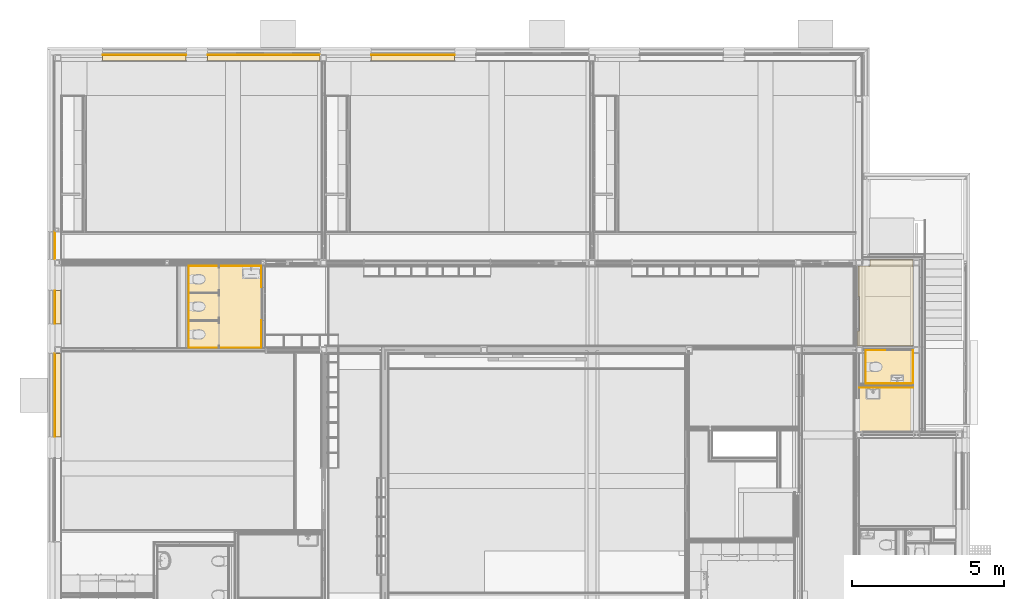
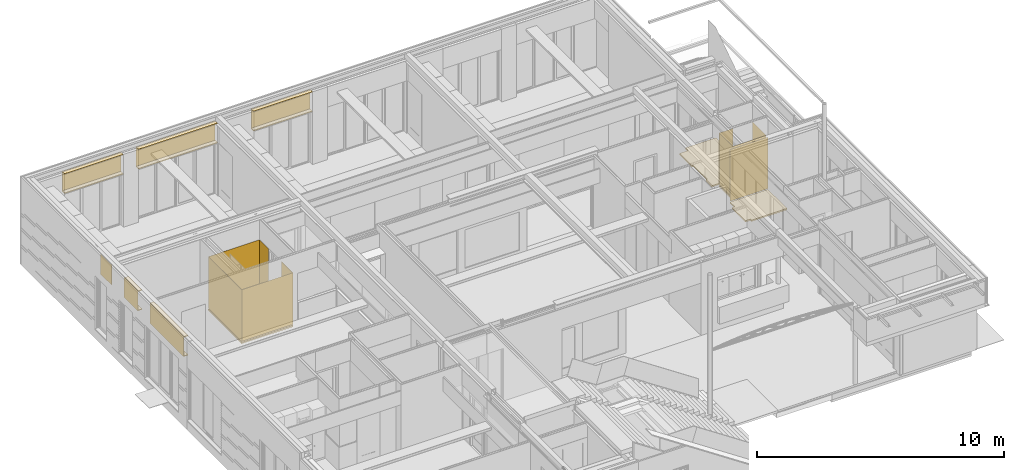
# One storey, part 119 of 165: 30 coverings, 20 elements without a shape of their own.
"""IFC2X3 building model written with IfcOpenShell, lengths in millimetres."""

from ifc_helpers import new_model, entity, si_unit, converted_unit, derived_unit, money_unit, direction, frame, origin_with_axes, place, context, subcontext, project, spatial, faceted_brep, material, type_object, element, aggregate, save


model = new_model("IFC2X3")

# Units and contexts
model_context = context("Model", 3, precision=0.01, world=origin_with_axes(), true_north=direction((0.0, 1.0)))
body_context = subcontext(model_context, "Body", "Model", "MODEL_VIEW")
ifc_project = project(units=[si_unit("LENGTHUNIT", "METRE", prefix="MILLI"), si_unit("AREAUNIT", "SQUARE_METRE"), si_unit("VOLUMEUNIT", "CUBIC_METRE"), converted_unit("PLANEANGLEUNIT", "DEGREE", entity("IfcPlaneAngleMeasure", 0.0174532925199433), si_unit("PLANEANGLEUNIT", "RADIAN"), dimensions=[0, 0, 0, 0, 0, 0, 0]), money_unit("EUR"), converted_unit("TIMEUNIT", "Year", entity("IfcTimeMeasure", 31556926.0), si_unit("TIMEUNIT", "SECOND"), dimensions=[0, 0, 1, 0, 0, 0, 0]), si_unit("MASSUNIT", "GRAM", prefix="KILO"), si_unit("THERMODYNAMICTEMPERATUREUNIT", "DEGREE_CELSIUS"), si_unit("LUMINOUSINTENSITYUNIT", "LUMEN"), si_unit("ENERGYUNIT", "JOULE", prefix="MEGA"), derived_unit("THERMALCONDUCTANCEUNIT", [(si_unit("POWERUNIT", "WATT"), 1), (si_unit("LENGTHUNIT", "METRE"), -1), (si_unit("THERMODYNAMICTEMPERATUREUNIT", "KELVIN"), -1)]), derived_unit("SPECIFICHEATCAPACITYUNIT", [(si_unit("ENERGYUNIT", "JOULE"), 1), (si_unit("MASSUNIT", "GRAM", prefix="KILO"), -1), (si_unit("THERMODYNAMICTEMPERATUREUNIT", "KELVIN"), -1)]), derived_unit("MASSDENSITYUNIT", [(si_unit("MASSUNIT", "GRAM", prefix="KILO"), 1), (si_unit("VOLUMEUNIT", "CUBIC_METRE"), -1)])], contexts=[model_context])

# Site, building, storey
site_placement = place(None, origin_with_axes())
site = spatial("IfcSite", under=ifc_project, at=site_placement, Name="Site", CompositionType="ELEMENT")
building_placement = place(site_placement, origin_with_axes())
building = spatial("IfcBuilding", under=site, at=building_placement, Name="Naam gebouw", CompositionType="ELEMENT")
storey_placement = place(building_placement, origin_with_axes())
storey = spatial("IfcBuildingStorey", under=building, at=storey_placement, Name="Begane grond", CompositionType="ELEMENT", Elevation=0.0)

# Slab, covering
slab_type = type_object("IfcSlabType", Name="43 Zwevende dekvloer 100", PredefinedType="NOTDEFINED")
slab_1_placement = place(storey_placement, frame((26461.00000000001, 22210.97623347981, 0.0), z_axis=(0.0, 0.0, 1.0), x_axis=(1.0, 0.0, 0.0)))
slab_1 = element("IfcSlab", 1, at=slab_1_placement, inside=storey, type_object=slab_type, Name="_Vloer-x", PredefinedType="NOTDEFINED")
ifc_material_1 = material(Name="Cement - dekvloer")
covering_1_placement = place(slab_1_placement, origin_with_axes())
covering_1 = element("IfcCovering", 2, at=covering_1_placement, material=ifc_material_1, Name="Cement - dekvloer", PredefinedType="FLOORING", context=body_context, shape_type="Brep", body=[
    faceted_brep([(0.0, -1005.999990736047, -70.0), (0.0, -1005.999990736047, 0.0), (0.0, 0.0, 0.0), (0.0, 0.0, -70.0), (56.99999643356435, -1005.999990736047, -70.0), (56.99999643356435, -1005.999990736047, 0.0), (56.99999643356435, -2135.99999073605, 0.0), (-4.999999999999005, -2135.99999073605, 0.0), (-4.999999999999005, -2635.975827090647, 0.0), (1824.99999779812, -2635.975827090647, 0.0), (1825.000083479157, 214.00000389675, 0.0), (398.999975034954, 214.00000389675, 0.0), (398.999975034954, 0.0, 0.0), (398.999975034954, 0.0, -70.0), (398.999975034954, 214.00000389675, -70.0), (1825.000083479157, 214.00000389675, -70.0), (1824.99999779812, -2635.975827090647, -70.0), (-4.999999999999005, -2635.975827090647, -70.0), (-4.999999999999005, -2135.99999073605, -70.0), (56.99999643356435, -2135.99999073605, -70.0)], [[[0, 1, 2, 3]], [[4, 5, 1, 0]], [[2, 1, 5, 6, 7, 8, 9, 10, 11, 12]], [[3, 2, 12, 13]], [[3, 13, 14, 15, 16, 17, 18, 19, 4, 0]], [[19, 6, 5, 4]], [[18, 7, 6, 19]], [[17, 8, 7, 18]], [[16, 9, 8, 17]], [[15, 10, 9, 16]], [[14, 11, 10, 15]], [[13, 12, 11, 14]]]),
])
aggregate(slab_1, [covering_1])

slab_2_placement = place(storey_placement, frame((27355.99997968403, 19450.00039292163, 0.0), z_axis=(0.0, 0.0, 1.0), x_axis=(1.0, 0.0, 0.0)))
slab_2 = element("IfcSlab", 3, at=slab_2_placement, inside=storey, type_object=slab_type, Name="_Vloer-x", PredefinedType="NOTDEFINED")
covering_2_placement = place(slab_2_placement, origin_with_axes())
covering_2 = element("IfcCovering", 4, at=covering_2_placement, material=ifc_material_1, Name="Cement - dekvloer", PredefinedType="FLOORING", context=body_context, shape_type="Brep", body=[
    faceted_brep([(-644.9998693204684, 0.0, -70.0), (-644.9998693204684, 0.0, 0.0), (0.0, 0.0, 0.0), (0.0, 0.0, -70.0), (-644.9998693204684, -1113.999973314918, -70.0), (-644.9998693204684, -1113.999973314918, 0.0), (930.0000202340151, -1113.999973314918, 0.0), (930.0000202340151, 132.0000000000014, 0.0), (0.0, 132.0000000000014, 0.0), (0.0, 132.0000000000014, -70.0), (930.0000202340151, 132.0000000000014, -70.0), (930.0000202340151, -1113.999973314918, -70.0)], [[[0, 1, 2, 3]], [[4, 5, 1, 0]], [[2, 1, 5, 6, 7, 8]], [[3, 2, 8, 9]], [[3, 9, 10, 11, 4, 0]], [[11, 6, 5, 4]], [[10, 7, 6, 11]], [[9, 8, 7, 10]]]),
])
aggregate(slab_2, [covering_2])

slab_3_placement = place(storey_placement, frame((6815.000066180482, 22229.99480158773, 0.0), z_axis=(0.0, 0.0, 1.0), x_axis=(1.0, 0.0, 0.0)))
slab_3 = element("IfcSlab", 5, at=slab_3_placement, inside=storey, type_object=slab_type, Name="_Vloer-x", PredefinedType="NOTDEFINED")
covering_3_placement = place(slab_3_placement, origin_with_axes())
covering_3 = element("IfcCovering", 6, at=covering_3_placement, material=ifc_material_1, Name="Cement - dekvloer", PredefinedType="FLOORING", context=body_context, shape_type="Brep", body=[
    faceted_brep([(-2410.000066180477, -0.00782582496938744, -70.0), (-2410.000066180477, -0.00782582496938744, 0.0), (0.0, 0.0, 0.0), (0.0, 0.0, -70.0), (-2410.000066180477, -2717.494990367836, -70.0), (-2410.000066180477, -2717.494990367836, 0.0), (-1.251267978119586e-05, -2717.494990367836, 0.0), (-1.251267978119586e-05, -1767.5185875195, 0.0), (124.9999874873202, -1767.5185875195, 0.0), (124.9999874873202, -687.5185875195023, 0.0), (0.0, -687.5185875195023, 0.0), (0.0, -687.5185875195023, -70.0), (124.9999874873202, -687.5185875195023, -70.0), (124.9999874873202, -1767.5185875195, -70.0), (-1.251267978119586e-05, -1767.5185875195, -70.0), (-1.251267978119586e-05, -2717.494990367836, -70.0)], [[[0, 1, 2, 3]], [[4, 5, 1, 0]], [[2, 1, 5, 6, 7, 8, 9, 10]], [[3, 2, 10, 11]], [[3, 11, 12, 13, 14, 15, 4, 0]], [[15, 6, 5, 4]], [[14, 7, 6, 15]], [[13, 8, 7, 14]], [[12, 9, 8, 13]], [[11, 10, 9, 12]]]),
])
aggregate(slab_3, [covering_3])

# Proxy, covering
building_element_proxy_type = type_object("IfcBuildingElementProxyType", Name="42 Tegelwerk 2600+ 12 x 2600", PredefinedType="NOTDEFINED")
proxy_1_placement = place(storey_placement, frame((27355.99997968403, 19430.0003938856, 0.0), z_axis=(0.0, 0.0, 1.0), x_axis=(-1.0, 0.0, 0.0)))
proxy_1 = element("IfcBuildingElementProxy", 7, at=proxy_1_placement, inside=storey, type_object=building_element_proxy_type, Name="_Wand-x")
ifc_material_2 = material(Name="Tegels - Wand")
covering_4_placement = place(proxy_1_placement, origin_with_axes())
covering_4 = element("IfcCovering", 8, at=covering_4_placement, material=ifc_material_2, Name="Tegels - Wand", PredefinedType="NOTDEFINED", context=body_context, shape_type="Brep", body=[
    faceted_brep([(637.9999885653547, -13.00000000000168, 50.00000000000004), (637.9999885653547, -12.99999999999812, 2600.0), (0.0, -12.99999999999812, 2600.0), (0.0, -13.00000000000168, 50.00000000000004), (637.9999885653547, -7.999999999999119, 2600.0), (637.9999885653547, -7.999999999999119, 50.00000000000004), (0.0, -7.999999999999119, 2600.0), (0.0, -7.999999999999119, 50.00000000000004)], [[[0, 1, 2, 3]], [[4, 1, 0, 5]], [[1, 4, 6, 2]], [[6, 7, 3, 2]], [[5, 0, 3, 7]], [[4, 5, 7, 6]]]),
])
aggregate(proxy_1, [covering_4])

proxy_2_placement = place(storey_placement, frame((26730.99999558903, 19430.0003938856, 0.0), z_axis=(0.0, 0.0, 1.0), x_axis=(4.692530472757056e-08, -0.999999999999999, 0.0)))
proxy_2 = element("IfcBuildingElementProxy", 9, at=proxy_2_placement, inside=storey, type_object=building_element_proxy_type, Name="_Wand-x")
covering_5_placement = place(proxy_2_placement, origin_with_axes())
covering_5 = element("IfcCovering", 10, at=covering_5_placement, material=ifc_material_2, Name="Tegels - Wand", PredefinedType="NOTDEFINED", context=body_context, shape_type="Brep", body=[
    faceted_brep([(1086.999989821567, -13.00005100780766, 2600.0), (1086.999990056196, -8.000051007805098, 2600.0), (-8.000000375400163, -7.999999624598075, 2600.0), (-8.00000061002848, -12.99999962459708, 2600.0), (1086.999990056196, -8.000051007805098, 50.00000000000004), (1086.999989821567, -13.00005100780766, 50.00000000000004), (-8.000000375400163, -7.999999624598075, 50.00000000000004), (-8.00000061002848, -12.99999962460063, 50.00000000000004)], [[[0, 1, 2, 3]], [[4, 1, 0, 5]], [[1, 4, 6, 2]], [[3, 2, 6, 7]], [[5, 0, 3, 7]], [[4, 5, 7, 6]]]),
])
aggregate(proxy_2, [covering_5])

proxy_3_placement = place(storey_placement, frame((26731.0000459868, 18356.00040792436, 0.0), z_axis=(0.0, 0.0, 1.0), x_axis=(1.0, -1.489979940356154e-08, 0.0)))
proxy_3 = element("IfcBuildingElementProxy", 11, at=proxy_3_placement, inside=storey, type_object=building_element_proxy_type, Name="_Wand-x")
covering_6_placement = place(proxy_3_placement, origin_with_axes())
covering_6 = element("IfcCovering", 12, at=covering_6_placement, material=ifc_material_2, Name="Tegels - Wand", PredefinedType="NOTDEFINED", context=body_context, shape_type="Brep", body=[
    faceted_brep([(1547.999942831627, -12.99997693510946, 2600.0), (1547.999942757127, -7.999976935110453, 2600.0), (-8.000050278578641, -8.000000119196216, 2600.0), (-8.000050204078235, -13.00000011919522, 2600.0), (1547.999942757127, -7.999976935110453, 50.00000000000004), (1547.999942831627, -12.99997693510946, 50.00000000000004), (-8.000050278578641, -8.000000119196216, 50.00000000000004), (-8.000050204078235, -13.00000011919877, 50.00000000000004)], [[[0, 1, 2, 3]], [[4, 1, 0, 5]], [[1, 4, 6, 2]], [[3, 2, 6, 7]], [[5, 0, 3, 7]], [[4, 5, 7, 6]]]),
])
aggregate(proxy_3, [covering_6])

proxy_4_placement = place(storey_placement, frame((28265.99998415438, 18356.00038505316, 0.0), z_axis=(0.0, 0.0, 1.0), x_axis=(0.0, 1.0, 0.0)))
proxy_4 = element("IfcBuildingElementProxy", 13, at=proxy_4_placement, inside=storey, type_object=building_element_proxy_type, Name="_Wand-x")
covering_7_placement = place(proxy_4_placement, origin_with_axes())
covering_7 = element("IfcCovering", 14, at=covering_7_placement, material=ifc_material_2, Name="Tegels - Wand", PredefinedType="NOTDEFINED", context=body_context, shape_type="Brep", body=[
    faceted_brep([(-7.999977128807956, -7.999999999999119, 2600.0), (-7.999977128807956, -12.99999999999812, 2600.0), (1087.000007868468, -12.99999999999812, 2600.0), (1087.000007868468, -7.999999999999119, 2600.0), (-7.999977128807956, -13.00000000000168, 50.00000000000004), (-7.999977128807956, -7.999999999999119, 50.00000000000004), (1087.000007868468, -13.00000000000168, 50.00000000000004), (1087.000007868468, -7.999999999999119, 50.00000000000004)], [[[0, 1, 2, 3]], [[4, 1, 0, 5]], [[1, 4, 6, 2]], [[3, 2, 6, 7]], [[5, 0, 3, 7]], [[4, 5, 7, 6]]]),
])
aggregate(proxy_4, [covering_7])

proxy_5_placement = place(storey_placement, frame((6795.000065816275, 21509.97621853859, 0.0), z_axis=(0.0, 0.0, 1.0), x_axis=(0.0, 1.0, 0.0)))
proxy_5 = element("IfcBuildingElementProxy", 15, at=proxy_5_placement, inside=storey, type_object=building_element_proxy_type, Name="_Wand-x")
covering_8_placement = place(proxy_5_placement, origin_with_axes())
covering_8 = element("IfcCovering", 16, at=covering_8_placement, material=ifc_material_2, Name="Tegels - Wand", PredefinedType="NOTDEFINED", context=body_context, shape_type="Brep", body=[
    faceted_brep([(713.0181674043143, -12.9999999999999, 50.00000000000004), (713.0181674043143, -12.9999999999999, 2600.0), (0.0, -12.9999999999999, 2600.0), (0.0, -12.9999999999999, 50.00000000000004), (713.0181540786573, -7.999999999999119, 2600.0), (713.0181540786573, -8.000000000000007, 50.00000000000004), (0.0, -8.000000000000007, 2600.0), (0.0, -8.000000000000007, 50.00000000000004)], [[[0, 1, 2, 3]], [[4, 1, 0, 5]], [[1, 4, 6, 2]], [[6, 7, 3, 2]], [[5, 0, 3, 7]], [[4, 5, 7, 6]]]),
])
aggregate(proxy_5, [covering_8])

proxy_6_placement = place(storey_placement, frame((6795.000065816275, 22209.9943468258, 0.0), z_axis=(0.0, 0.0, 1.0), x_axis=(-0.9999999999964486, -2.665131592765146e-06, 0.0)))
proxy_6 = element("IfcBuildingElementProxy", 17, at=proxy_6_placement, inside=storey, type_object=building_element_proxy_type, Name="_Wand-x")
covering_9_placement = place(proxy_6_placement, origin_with_axes())
covering_9 = element("IfcCovering", 18, at=covering_9_placement, material=ifc_material_2, Name="Tegels - Wand", PredefinedType="NOTDEFINED", context=body_context, shape_type="Brep", body=[
    faceted_brep([(2383.000035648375, -13.00000000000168, 50.00000000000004), (2383.000035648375, -13.00000000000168, 2600.0), (-8.000034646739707, -13.00000000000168, 2600.0), (-8.000034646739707, -13.00000000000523, 50.00000000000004), (2383.000048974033, -7.999999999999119, 2600.0), (2383.000048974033, -7.999999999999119, 50.00000000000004), (-8.000021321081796, -8.000000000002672, 2600.0), (-8.000021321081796, -8.000000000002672, 50.00000000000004)], [[[0, 1, 2, 3]], [[4, 1, 0, 5]], [[1, 4, 6, 2]], [[3, 2, 6, 7]], [[5, 0, 3, 7]], [[4, 5, 7, 6]]]),
])
aggregate(proxy_6, [covering_9])

proxy_7_placement = place(storey_placement, frame((4425.000000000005, 22209.98803046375, 0.0), z_axis=(0.0, 0.0, 1.0), x_axis=(0.0, -1.0, 0.0)))
proxy_7 = element("IfcBuildingElementProxy", 19, at=proxy_7_placement, inside=storey, type_object=building_element_proxy_type, Name="_Wand-x")
covering_10_placement = place(proxy_7_placement, origin_with_axes())
covering_10 = element("IfcCovering", 20, at=covering_10_placement, material=ifc_material_2, Name="Tegels - Wand", PredefinedType="NOTDEFINED", context=body_context, shape_type="Brep", body=[
    faceted_brep([(2690.488223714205, -12.9999999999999, 2600.0), (2690.488223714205, -8.000000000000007, 2600.0), (-7.999978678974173, -8.000000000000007, 2600.0), (-7.999965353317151, -12.9999999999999, 2600.0), (2690.488223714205, -8.000000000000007, 50.00000000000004), (2690.488223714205, -13.00000000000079, 50.00000000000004), (-7.999978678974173, -7.999999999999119, 50.00000000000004), (-7.999965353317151, -12.9999999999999, 50.00000000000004)], [[[0, 1, 2, 3]], [[4, 1, 0, 5]], [[1, 4, 6, 2]], [[3, 2, 6, 7]], [[5, 0, 3, 7]], [[4, 5, 7, 6]]]),
])
aggregate(proxy_7, [covering_10])

proxy_8_placement = place(storey_placement, frame((4425.000000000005, 19532.4998112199, 0.0), z_axis=(0.0, 0.0, 1.0), x_axis=(1.0, 0.0, 0.0)))
proxy_8 = element("IfcBuildingElementProxy", 21, at=proxy_8_placement, inside=storey, type_object=building_element_proxy_type, Name="_Wand-x")
covering_11_placement = place(proxy_8_placement, origin_with_axes())
covering_11 = element("IfcCovering", 22, at=covering_11_placement, material=ifc_material_2, Name="Tegels - Wand", PredefinedType="NOTDEFINED", context=body_context, shape_type="Brep", body=[
    faceted_brep([(2383.000058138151, -12.99999999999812, 2600.0), (2383.000058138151, -7.999999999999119, 2600.0), (-8.000000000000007, -7.999999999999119, 2600.0), (-8.000000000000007, -12.99999999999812, 2600.0), (2383.000058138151, -7.999999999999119, 50.00000000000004), (2383.000058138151, -12.99999999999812, 50.00000000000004), (-8.000000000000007, -7.999999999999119, 50.00000000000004), (-8.000000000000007, -13.00000000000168, 50.00000000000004)], [[[0, 1, 2, 3]], [[4, 1, 0, 5]], [[1, 4, 6, 2]], [[3, 2, 6, 7]], [[5, 0, 3, 7]], [[4, 5, 7, 6]]]),
])
aggregate(proxy_8, [covering_11])

proxy_9_placement = place(storey_placement, frame((6795.000053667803, 19532.4998112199, 0.0), z_axis=(0.0, 0.0, 1.0), x_axis=(0.0, 1.0, 0.0)))
proxy_9 = element("IfcBuildingElementProxy", 23, at=proxy_9_placement, inside=storey, type_object=building_element_proxy_type, Name="_Wand-x")
covering_12_placement = place(proxy_9_placement, origin_with_axes())
covering_12 = element("IfcCovering", 24, at=covering_12_placement, material=ifc_material_2, Name="Tegels - Wand", PredefinedType="NOTDEFINED", context=body_context, shape_type="Brep", body=[
    faceted_brep([(-7.999999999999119, -8.000000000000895, 2600.0), (-7.999999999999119, -12.9999999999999, 2600.0), (897.4764073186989, -12.9999999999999, 2600.0), (897.4764073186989, -8.000000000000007, 2600.0), (-7.999999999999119, -12.9999999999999, 50.00000000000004), (-7.999999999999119, -8.000000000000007, 50.00000000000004), (897.4764073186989, -12.9999999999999, 50.00000000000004), (897.4764073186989, -8.000000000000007, 50.00000000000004)], [[[0, 1, 2, 3]], [[4, 1, 0, 5]], [[1, 4, 6, 2]], [[3, 2, 6, 7]], [[5, 0, 3, 7]], [[4, 5, 7, 6]]]),
])
aggregate(proxy_9, [covering_12])

proxy_10_placement = place(storey_placement, frame((26511.0000001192, 18191.00038933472, 0.0), z_axis=(0.0, 0.0, 1.0), x_axis=(1.0, 0.0, 0.0)))
proxy_10 = element("IfcBuildingElementProxy", 25, at=proxy_10_placement, inside=storey, type_object=building_element_proxy_type, Name="_Wand-x")
covering_13_placement = place(proxy_10_placement, origin_with_axes())
covering_13 = element("IfcCovering", 26, at=covering_13_placement, material=ifc_material_2, Name="Tegels - Wand", PredefinedType="NOTDEFINED", context=body_context, shape_type="Brep", body=[
    faceted_brep([(1774.999984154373, 7.999999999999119, 50.0), (1774.999984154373, 7.999999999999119, 2600.0), (0.0, 7.999999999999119, 2600.0), (0.0, 7.999999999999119, 50.0), (1774.999984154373, 13.00000000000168, 50.0), (1774.999984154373, 13.00000000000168, 2600.0), (0.0, 13.00000000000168, 2600.0), (0.0, 13.00000000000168, 50.0)], [[[0, 1, 2, 3]], [[0, 4, 5, 1]], [[1, 5, 6, 2]], [[3, 2, 6, 7]], [[4, 0, 3, 7]], [[5, 4, 7, 6]]]),
])
aggregate(proxy_10, [covering_13])

# Beam, coverings
beam_type = type_object("IfcBeamType", Name="31 HSB boven kozijnen 214 x 1000", PredefinedType="BEAM")
beam_1_placement = place(storey_placement, frame((10424.99942456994, 28961.0, 2600.000000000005), z_axis=(0.0, 0.0, 1.0), x_axis=(0.0, -1.0, 0.0)))
beam_1 = element("IfcBeam", 27, at=beam_1_placement, inside=storey, type_object=beam_type, Name="28_Balk-x", ObjectType="BEAM")
ifc_material_3 = material(Name="Hout - Vloer")
covering_14_placement = place(beam_1_placement, origin_with_axes())
covering_14 = element("IfcCovering", 28, at=covering_14_placement, material=ifc_material_3, Name="Hout - Vloer", PredefinedType="NOTDEFINED", context=body_context, shape_type="Brep", body=[
    faceted_brep([(-196.000001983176, 2750.000000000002, 999.9999999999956), (-196.000001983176, 2750.000000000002, 961.9999910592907), (-196.000001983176, 0.0, 961.9999910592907), (-196.000001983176, 0.0, 999.9999999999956), (-11.99999006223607, 2750.000000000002, 999.9999999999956), (-11.99999006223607, 2750.000000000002, 962.0000059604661), (-11.99999006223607, 0.0, 962.0000059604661), (-11.99999006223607, 0.0, 999.9999999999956)], [[[0, 1, 2, 3]], [[0, 4, 5, 1]], [[1, 5, 6, 2]], [[3, 2, 6, 7]], [[4, 0, 3, 7]], [[5, 4, 7, 6]]]),
])
covering_15_placement = place(beam_1_placement, origin_with_axes())
covering_15 = element("IfcCovering", 29, at=covering_15_placement, material=ifc_material_3, Name="Hout - Vloer", PredefinedType="NOTDEFINED", context=body_context, shape_type="Brep", body=[
    faceted_brep([(-196.0000083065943, 2750.000000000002, 49.99999999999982), (-196.0000083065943, 2750.000000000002, 12.00000596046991), (-196.0000083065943, 0.0, 12.00000596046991), (-196.0000083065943, 0.0, 49.99999999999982), (-11.9999963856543, 2750.000000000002, 49.99999999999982), (-11.9999963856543, 2750.000000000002, 12.00000596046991), (-11.9999963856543, 0.0, 12.00000596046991), (-11.9999963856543, 0.0, 49.99999999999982)], [[[0, 1, 2, 3]], [[0, 4, 5, 1]], [[1, 5, 6, 2]], [[3, 2, 6, 7]], [[4, 0, 3, 7]], [[5, 4, 7, 6]]]),
])
ifc_material_4 = material(Name="Hout - Multiplex")
covering_16_placement = place(beam_1_placement, origin_with_axes())
covering_16 = element("IfcCovering", 30, at=covering_16_placement, material=ifc_material_4, Name="Hout - Multiplex", PredefinedType="NOTDEFINED", context=body_context, shape_type="Brep", body=[
    faceted_brep([(-214.0000025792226, 2750.000000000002, 999.9999999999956), (-214.0000025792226, 2750.000000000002, 11.99999999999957), (-214.0000025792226, 0.0, 11.99999999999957), (-214.0000025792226, 0.0, 999.9999999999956), (-196.000001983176, 2750.000000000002, 999.9999999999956), (-196.000001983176, 2750.000000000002, 11.99999999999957), (-196.000001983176, 0.0, 11.99999999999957), (-196.000001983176, 0.0, 999.9999999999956)], [[[0, 1, 2, 3]], [[0, 4, 5, 1]], [[1, 5, 6, 2]], [[3, 2, 6, 7]], [[4, 0, 3, 7]], [[5, 4, 7, 6]]]),
])
aggregate(beam_1, [covering_14, covering_15, covering_16])

beam_2_placement = place(storey_placement, frame((5035.000000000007, 28961.0, 2600.000000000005), z_axis=(0.0, 0.0, 1.0), x_axis=(0.0, -1.0, 0.0)))
beam_2 = element("IfcBeam", 31, at=beam_2_placement, inside=storey, type_object=beam_type, Name="28_Balk-x", ObjectType="BEAM")
covering_17_placement = place(beam_2_placement, origin_with_axes())
covering_17 = element("IfcCovering", 32, at=covering_17_placement, material=ifc_material_3, Name="Hout - Vloer", PredefinedType="NOTDEFINED", context=body_context, shape_type="Brep", body=[
    faceted_brep([(-196.000001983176, 3700.000000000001, 999.9999999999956), (-196.000001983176, 3700.000000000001, 961.9999910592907), (-196.000001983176, 0.0, 961.9999910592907), (-196.000001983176, 0.0, 999.9999999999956), (-11.99999006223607, 3700.000000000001, 999.9999999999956), (-11.99999006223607, 3700.000000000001, 962.0000059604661), (-11.99999006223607, 0.0, 962.0000059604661), (-11.99999006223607, 0.0, 999.9999999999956)], [[[0, 1, 2, 3]], [[0, 4, 5, 1]], [[1, 5, 6, 2]], [[3, 2, 6, 7]], [[4, 0, 3, 7]], [[5, 4, 7, 6]]]),
])
covering_18_placement = place(beam_2_placement, origin_with_axes())
covering_18 = element("IfcCovering", 33, at=covering_18_placement, material=ifc_material_3, Name="Hout - Vloer", PredefinedType="NOTDEFINED", context=body_context, shape_type="Brep", body=[
    faceted_brep([(-196.0000083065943, 3700.000000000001, 49.99999999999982), (-196.0000083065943, 3700.000000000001, 12.00000596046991), (-196.0000083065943, 0.0, 12.00000596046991), (-196.0000083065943, 0.0, 49.99999999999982), (-11.9999963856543, 3700.000000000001, 49.99999999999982), (-11.9999963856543, 3700.000000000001, 12.00000596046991), (-11.9999963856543, 0.0, 12.00000596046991), (-11.9999963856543, 0.0, 49.99999999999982)], [[[0, 1, 2, 3]], [[0, 4, 5, 1]], [[1, 5, 6, 2]], [[3, 2, 6, 7]], [[4, 0, 3, 7]], [[5, 4, 7, 6]]]),
])
covering_19_placement = place(beam_2_placement, origin_with_axes())
covering_19 = element("IfcCovering", 34, at=covering_19_placement, material=ifc_material_4, Name="Hout - Multiplex", PredefinedType="NOTDEFINED", context=body_context, shape_type="Brep", body=[
    faceted_brep([(-214.0000025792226, 3700.000000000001, 999.9999999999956), (-214.0000025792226, 3700.000000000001, 11.99999999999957), (-214.0000025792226, 0.0, 11.99999999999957), (-214.0000025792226, 0.0, 999.9999999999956), (-196.000001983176, 3700.000000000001, 999.9999999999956), (-196.000001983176, 3700.000000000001, 11.99999999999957), (-196.000001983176, 0.0, 11.99999999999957), (-196.000001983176, 0.0, 999.9999999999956)], [[[0, 1, 2, 3]], [[0, 4, 5, 1]], [[1, 5, 6, 2]], [[3, 2, 6, 7]], [[4, 0, 3, 7]], [[5, 4, 7, 6]]]),
])
aggregate(beam_2, [covering_17, covering_18, covering_19])

beam_3_placement = place(storey_placement, frame((1575.000000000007, 28961.0, 2600.000000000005), z_axis=(0.0, 0.0, 1.0), x_axis=(0.0, -1.0, 0.0)))
beam_3 = element("IfcBeam", 35, at=beam_3_placement, inside=storey, type_object=beam_type, Name="28_Balk-x", ObjectType="BEAM")
covering_20_placement = place(beam_3_placement, origin_with_axes())
covering_20 = element("IfcCovering", 36, at=covering_20_placement, material=ifc_material_3, Name="Hout - Vloer", PredefinedType="NOTDEFINED", context=body_context, shape_type="Brep", body=[
    faceted_brep([(-196.000001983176, 2750.000000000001, 999.9999999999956), (-196.000001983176, 2750.000000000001, 961.9999910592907), (-196.000001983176, 0.0, 961.9999910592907), (-196.000001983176, 0.0, 999.9999999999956), (-11.99999006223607, 2750.000000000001, 999.9999999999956), (-11.99999006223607, 2750.000000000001, 962.0000059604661), (-11.99999006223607, 0.0, 962.0000059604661), (-11.99999006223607, 0.0, 999.9999999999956)], [[[0, 1, 2, 3]], [[0, 4, 5, 1]], [[1, 5, 6, 2]], [[3, 2, 6, 7]], [[4, 0, 3, 7]], [[5, 4, 7, 6]]]),
])
covering_21_placement = place(beam_3_placement, origin_with_axes())
covering_21 = element("IfcCovering", 37, at=covering_21_placement, material=ifc_material_3, Name="Hout - Vloer", PredefinedType="NOTDEFINED", context=body_context, shape_type="Brep", body=[
    faceted_brep([(-196.0000083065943, 2750.000000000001, 49.99999999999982), (-196.0000083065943, 2750.000000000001, 12.00000596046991), (-196.0000083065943, 0.0, 12.00000596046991), (-196.0000083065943, 0.0, 49.99999999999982), (-11.9999963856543, 2750.000000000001, 49.99999999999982), (-11.9999963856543, 2750.000000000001, 12.00000596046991), (-11.9999963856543, 0.0, 12.00000596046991), (-11.9999963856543, 0.0, 49.99999999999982)], [[[0, 1, 2, 3]], [[0, 4, 5, 1]], [[1, 5, 6, 2]], [[3, 2, 6, 7]], [[4, 0, 3, 7]], [[5, 4, 7, 6]]]),
])
covering_22_placement = place(beam_3_placement, origin_with_axes())
covering_22 = element("IfcCovering", 38, at=covering_22_placement, material=ifc_material_4, Name="Hout - Multiplex", PredefinedType="NOTDEFINED", context=body_context, shape_type="Brep", body=[
    faceted_brep([(-214.0000025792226, 2750.000000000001, 999.9999999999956), (-214.0000025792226, 2750.000000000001, 11.99999999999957), (-214.0000025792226, 0.0, 11.99999999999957), (-214.0000025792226, 0.0, 999.9999999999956), (-196.000001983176, 2750.000000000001, 999.9999999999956), (-196.000001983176, 2750.000000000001, 11.99999999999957), (-196.000001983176, 0.0, 11.99999999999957), (-196.000001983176, 0.0, 999.9999999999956)], [[[0, 1, 2, 3]], [[0, 4, 5, 1]], [[1, 5, 6, 2]], [[3, 2, 6, 7]], [[4, 0, 3, 7]], [[5, 4, 7, 6]]]),
])
aggregate(beam_3, [covering_20, covering_21, covering_22])

# Beam, covering
beam_4_placement = place(storey_placement, frame((214.000000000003, 20309.9998112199, 2600.000000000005), z_axis=(0.0, 0.0, 1.0), x_axis=(1.0, 0.0, 0.0)))
beam_4 = element("IfcBeam", 39, at=beam_4_placement, inside=storey, type_object=beam_type, Name="28_Balk-x", ObjectType="BEAM")
covering_23_placement = place(beam_4_placement, origin_with_axes())
covering_23 = element("IfcCovering", 40, at=covering_23_placement, material=ifc_material_3, Name="Hout - Vloer", PredefinedType="NOTDEFINED", context=body_context, shape_type="Brep", body=[
    faceted_brep([(-196.0000019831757, 1100.000000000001, 999.9999999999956), (-196.0000019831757, 1100.000000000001, 961.9999910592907), (-196.0000019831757, 0.0, 961.9999910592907), (-196.0000019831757, 0.0, 999.9999999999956), (-11.99999006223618, 1100.000000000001, 999.9999999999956), (-11.99999006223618, 1100.000000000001, 962.0000059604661), (-11.99999006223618, 0.0, 962.0000059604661), (-11.99999006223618, 0.0, 999.9999999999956)], [[[0, 1, 2, 3]], [[0, 4, 5, 1]], [[1, 5, 6, 2]], [[3, 2, 6, 7]], [[4, 0, 3, 7]], [[5, 4, 7, 6]]]),
])

beam_5_placement = place(storey_placement, frame((214.0000000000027, 22439.99984707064, 2600.000000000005), z_axis=(0.0, 0.0, 1.0), x_axis=(1.0, 0.0, 0.0)))
beam_5 = element("IfcBeam", 41, at=beam_5_placement, inside=storey, type_object=beam_type, Name="28_Balk-x", ObjectType="BEAM")
covering_24_placement = place(beam_5_placement, origin_with_axes())
covering_24 = element("IfcCovering", 42, at=covering_24_placement, material=ifc_material_4, Name="Hout - Multiplex", PredefinedType="NOTDEFINED", context=body_context, shape_type="Brep", body=[
    faceted_brep([(-214.0000025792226, 899.9999999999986, 999.9999999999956), (-214.0000025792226, 899.9999999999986, 11.99999999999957), (-214.0000025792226, 0.0, 11.99999999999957), (-214.0000025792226, 0.0, 999.9999999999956), (-196.0000019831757, 899.9999999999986, 999.9999999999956), (-196.0000019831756, 899.9999999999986, 11.99999999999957), (-196.0000019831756, 0.0, 11.99999999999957), (-196.0000019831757, 0.0, 999.9999999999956)], [[[0, 1, 2, 3]], [[0, 4, 5, 1]], [[1, 5, 6, 2]], [[3, 2, 6, 7]], [[4, 0, 3, 7]], [[5, 4, 7, 6]]]),
])
aggregate(beam_5, [covering_24])

# Covering
covering_25_placement = place(beam_4_placement, origin_with_axes())
covering_25 = element("IfcCovering", 43, at=covering_25_placement, material=ifc_material_3, Name="Hout - Vloer", PredefinedType="NOTDEFINED", context=body_context, shape_type="Brep", body=[
    faceted_brep([(-196.0000083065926, 1100.000000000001, 49.99999999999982), (-196.0000083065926, 1100.000000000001, 12.00000596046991), (-196.0000083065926, 0.0, 12.00000596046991), (-196.0000083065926, 0.0, 49.99999999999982), (-11.99999638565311, 1100.000000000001, 49.99999999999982), (-11.99999638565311, 1100.000000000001, 12.00000596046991), (-11.99999638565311, 0.0, 12.00000596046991), (-11.99999638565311, 0.0, 49.99999999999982)], [[[0, 1, 2, 3]], [[0, 4, 5, 1]], [[1, 5, 6, 2]], [[3, 2, 6, 7]], [[4, 0, 3, 7]], [[5, 4, 7, 6]]]),
])

covering_26_placement = place(beam_4_placement, origin_with_axes())
covering_26 = element("IfcCovering", 44, at=covering_26_placement, material=ifc_material_4, Name="Hout - Multiplex", PredefinedType="NOTDEFINED", context=body_context, shape_type="Brep", body=[
    faceted_brep([(-214.0000025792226, 1100.000000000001, 999.9999999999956), (-214.0000025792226, 1100.000000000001, 11.99999999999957), (-214.0000025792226, 0.0, 11.99999999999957), (-214.0000025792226, 0.0, 999.9999999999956), (-196.0000019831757, 1100.000000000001, 999.9999999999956), (-196.0000019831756, 1100.000000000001, 11.99999999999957), (-196.0000019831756, 0.0, 11.99999999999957), (-196.0000019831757, 0.0, 999.9999999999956)], [[[0, 1, 2, 3]], [[0, 4, 5, 1]], [[1, 5, 6, 2]], [[3, 2, 6, 7]], [[4, 0, 3, 7]], [[5, 4, 7, 6]]]),
])

aggregate(beam_4, [covering_23, covering_25, covering_26])

# Beam, coverings
beam_6_placement = place(storey_placement, frame((214.0000000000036, 16584.9998112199, 2600.000000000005), z_axis=(0.0, 0.0, 1.0), x_axis=(1.0, 0.0, 0.0)))
beam_6 = element("IfcBeam", 45, at=beam_6_placement, inside=storey, type_object=beam_type, Name="28_Balk-x", ObjectType="BEAM")
covering_27_placement = place(beam_6_placement, origin_with_axes())
covering_27 = element("IfcCovering", 46, at=covering_27_placement, material=ifc_material_3, Name="Hout - Vloer", PredefinedType="NOTDEFINED", context=body_context, shape_type="Brep", body=[
    faceted_brep([(-196.0000019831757, 2750.0, 999.9999999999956), (-196.0000019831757, 2750.0, 961.9999910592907), (-196.0000019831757, 0.0, 961.9999910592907), (-196.0000019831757, 0.0, 999.9999999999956), (-11.99999006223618, 2750.0, 999.9999999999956), (-11.99999006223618, 2750.0, 962.0000059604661), (-11.99999006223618, 0.0, 962.0000059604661), (-11.99999006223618, 0.0, 999.9999999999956)], [[[0, 1, 2, 3]], [[0, 4, 5, 1]], [[1, 5, 6, 2]], [[3, 2, 6, 7]], [[4, 0, 3, 7]], [[5, 4, 7, 6]]]),
])
covering_28_placement = place(beam_6_placement, origin_with_axes())
covering_28 = element("IfcCovering", 47, at=covering_28_placement, material=ifc_material_3, Name="Hout - Vloer", PredefinedType="NOTDEFINED", context=body_context, shape_type="Brep", body=[
    faceted_brep([(-196.0000083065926, 2750.0, 49.99999999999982), (-196.0000083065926, 2750.0, 12.00000596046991), (-196.0000083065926, 0.0, 12.00000596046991), (-196.0000083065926, 0.0, 49.99999999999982), (-11.99999638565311, 2750.0, 49.99999999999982), (-11.99999638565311, 2750.0, 12.00000596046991), (-11.99999638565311, 0.0, 12.00000596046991), (-11.99999638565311, 0.0, 49.99999999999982)], [[[0, 1, 2, 3]], [[0, 4, 5, 1]], [[1, 5, 6, 2]], [[3, 2, 6, 7]], [[4, 0, 3, 7]], [[5, 4, 7, 6]]]),
])
covering_29_placement = place(beam_6_placement, origin_with_axes())
covering_29 = element("IfcCovering", 48, at=covering_29_placement, material=ifc_material_4, Name="Hout - Multiplex", PredefinedType="NOTDEFINED", context=body_context, shape_type="Brep", body=[
    faceted_brep([(-214.0000025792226, 2750.0, 999.9999999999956), (-214.0000025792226, 2750.0, 11.99999999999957), (-214.0000025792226, 0.0, 11.99999999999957), (-214.0000025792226, 0.0, 999.9999999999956), (-196.0000019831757, 2750.0, 999.9999999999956), (-196.0000019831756, 2750.0, 11.99999999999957), (-196.0000019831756, 0.0, 11.99999999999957), (-196.0000019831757, 0.0, 999.9999999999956)], [[[0, 1, 2, 3]], [[0, 4, 5, 1]], [[1, 5, 6, 2]], [[3, 2, 6, 7]], [[4, 0, 3, 7]], [[5, 4, 7, 6]]]),
])
aggregate(beam_6, [covering_27, covering_28, covering_29])

# Slab, covering
slab_4_placement = place(storey_placement, frame((26386.00000000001, 17829.99778166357, 0.0), z_axis=(0.0, 0.0, 1.0), x_axis=(1.0, 0.0, 0.0)))
slab_4 = element("IfcSlab", 49, at=slab_4_placement, inside=storey, type_object=slab_type, Name="_Vloer-x", PredefinedType="NOTDEFINED")
covering_30_placement = place(slab_4_placement, origin_with_axes())
covering_30 = element("IfcCovering", 50, at=covering_30_placement, material=ifc_material_1, Name="Cement - dekvloer", PredefinedType="FLOORING", context=body_context, shape_type="Brep", body=[
    faceted_brep([(0.0, -1079.999999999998, -70.0), (0.0, -1079.999999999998, 0.0), (0.0, 0.0, 0.0), (0.0, 0.0, -70.0), (233.9999999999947, -1079.999999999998, -70.0), (233.9999999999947, -1079.999999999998, 0.0), (233.9999999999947, -1168.999999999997, 0.0), (1900.000062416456, -1168.999999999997, 0.0), (1899.999984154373, 381.0026030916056, 0.0), (125.0, 381.0026030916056, 0.0), (125.0, 0.0, 0.0), (125.0, 0.0, -70.0), (125.0, 381.0026030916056, -70.0), (1899.999984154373, 381.0026030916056, -70.0), (1900.000062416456, -1168.999999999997, -70.0), (233.9999999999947, -1168.999999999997, -70.0)], [[[0, 1, 2, 3]], [[4, 5, 1, 0]], [[2, 1, 5, 6, 7, 8, 9, 10]], [[3, 2, 10, 11]], [[3, 11, 12, 13, 14, 15, 4, 0]], [[15, 6, 5, 4]], [[14, 7, 6, 15]], [[13, 8, 7, 14]], [[12, 9, 8, 13]], [[11, 10, 9, 12]]]),
])
aggregate(slab_4, [covering_30])

save(model, "model.ifc")
